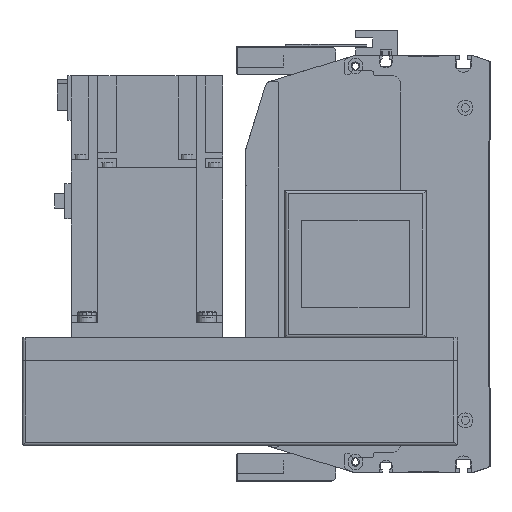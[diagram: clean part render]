
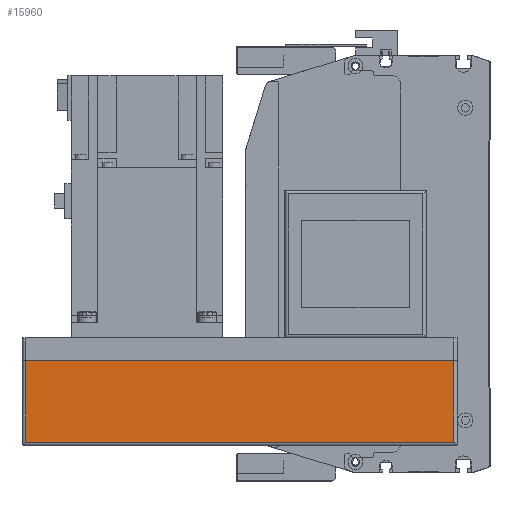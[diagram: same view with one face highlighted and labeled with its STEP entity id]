
A CAD part, left-side view. The second image highlights one B-rep face of the part: STEP entity #15960.
In plain terms, the highlighted planar face has unit normal (-1, 0, 0) as drawn and (0, -1, 0) by its records, which use the part's own axes.
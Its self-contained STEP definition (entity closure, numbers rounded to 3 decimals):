
#2579=ORIENTED_EDGE('',*,*,#6414,.F.);
#2580=ORIENTED_EDGE('',*,*,#6417,.T.);
#2581=ORIENTED_EDGE('',*,*,#6418,.T.);
#2582=ORIENTED_EDGE('',*,*,#6419,.F.);
#6414=EDGE_CURVE('',#8459,#8460,#10115,.T.);
#6417=EDGE_CURVE('',#8459,#8462,#10117,.T.);
#6418=EDGE_CURVE('',#8462,#8463,#10118,.T.);
#6419=EDGE_CURVE('',#8460,#8463,#10119,.T.);
#8459=VERTEX_POINT('',#24909);
#8460=VERTEX_POINT('',#24911);
#8462=VERTEX_POINT('',#24917);
#8463=VERTEX_POINT('',#24919);
#10115=LINE('',#24910,#11480);
#10117=LINE('',#24916,#11482);
#10118=LINE('',#24918,#11483);
#10119=LINE('',#24920,#11484);
#11480=VECTOR('',#19852,1000.);
#11482=VECTOR('',#19858,1000.);
#11483=VECTOR('',#19859,1000.);
#11484=VECTOR('',#19860,1000.);
#12670=EDGE_LOOP('',(#2579,#2580,#2581,#2582));
#14059=FACE_BOUND('',#12670,.T.);
#15304=PLANE('',#17120);
#15960=ADVANCED_FACE('',(#14059),#15304,.T.);
#17120=AXIS2_PLACEMENT_3D('',#24915,#19856,#19857);
#19852=DIRECTION('',(0.,0.,1.));
#19856=DIRECTION('',(0.,-1.,0.));
#19857=DIRECTION('',(0.,0.,-1.));
#19858=DIRECTION('',(1.,0.,0.));
#19859=DIRECTION('',(0.,0.,1.));
#19860=DIRECTION('',(1.,0.,0.));
#24909=CARTESIAN_POINT('',(-228.,-54.,-55.));
#24910=CARTESIAN_POINT('',(-228.,-54.,-57.));
#24911=CARTESIAN_POINT('',(-228.,-54.,-12.));
#24915=CARTESIAN_POINT('',(-228.,-54.,-57.));
#24916=CARTESIAN_POINT('',(-230.,-54.,-55.));
#24917=CARTESIAN_POINT('',(-2.,-54.,-55.));
#24918=CARTESIAN_POINT('',(-2.,-54.,-57.));
#24919=CARTESIAN_POINT('',(-2.,-54.,-12.));
#24920=CARTESIAN_POINT('',(-228.,-54.,-12.));
